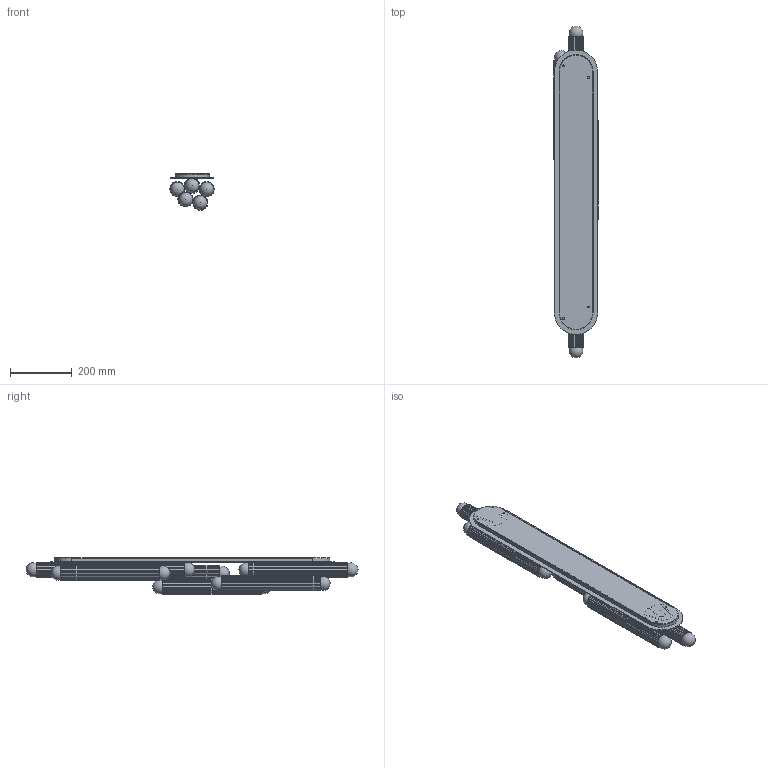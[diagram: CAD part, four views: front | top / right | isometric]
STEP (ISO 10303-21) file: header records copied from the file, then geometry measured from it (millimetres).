
FILE_DESCRIPTION(/* description */ (''),/* implementation_level */ '2;1');
FILE_NAME(/* name */ 'B745 Vesta XXLG.stp',/* time_stamp */ '2025-07-10T15:52:42+02:00',/* author */ ('Lukasz'),/* organization */ (''),/* preprocessor_version */ 'ST-DEVELOPER v20.1',/* originating_system */ 'Autodesk Inventor 2026',/* authorisation */ '');
FILE_SCHEMA (('AUTOMOTIVE_DESIGN { 1 0 10303 214 3 1 1 }'));
Products named in the file (1): B745 Vesta XXLG UL v0 - katalog
Bounding box: 144.71 x 1074.05 x 118.36 mm (x, y, z)
Volume: 1794464.6 mm3; surface area: 1510175 mm2
Topology: 53 solids, 53 shells, 1473 faces, 4023 edges, 2630 vertices
Faces by surface type: plane 651, cylinder 640, cone 86, torus 60, bspline 24, sphere 12
Full cylindrical faces by diameter (mm): 2.693 x23, 3 x24, 4 x22, 5 x1, 5.5 x23, 6 x1, 7 x10, 10 x2, 10.5 x2, 12 x12, 17 x12, 36.5 x1, 41.8 x1
Entity records: 51873 total; most frequent: CARTESIAN_POINT 11857, DIRECTION 8265, ORIENTED_EDGE 8022, EDGE_CURVE 4011, AXIS2_PLACEMENT_3D 3022, VERTEX_POINT 2630, LINE 2221, VECTOR 2221
